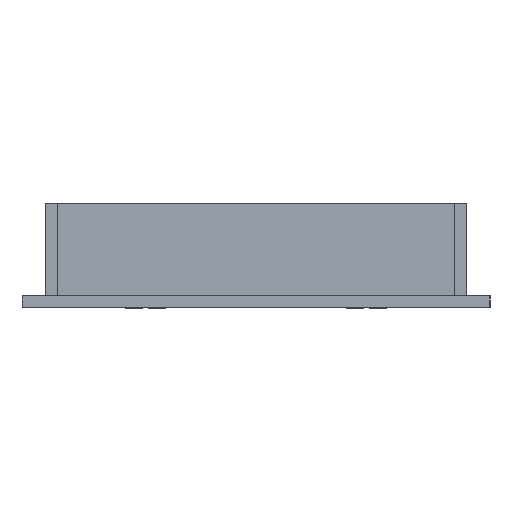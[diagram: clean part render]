
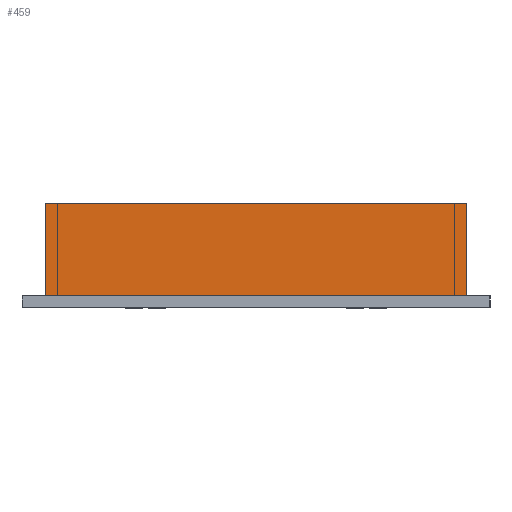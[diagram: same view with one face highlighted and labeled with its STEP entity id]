
A CAD part, left-side view. The second image highlights one B-rep face of the part: STEP entity #459.
In plain terms, the highlighted planar face has unit normal (-1, 0, 0).
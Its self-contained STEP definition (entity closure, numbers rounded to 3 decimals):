
#459=ADVANCED_FACE('',(#972),#6589,.T.);
#972=FACE_OUTER_BOUND('',#1491,.T.);
#1491=EDGE_LOOP('',(#3059,#3060,#3061,#3062));
#3059=ORIENTED_EDGE('',*,*,#5013,.T.);
#3060=ORIENTED_EDGE('',*,*,#5002,.T.);
#3061=ORIENTED_EDGE('',*,*,#5003,.F.);
#3062=ORIENTED_EDGE('',*,*,#5004,.F.);
#5002=EDGE_CURVE('',#6070,#6063,#7297,.T.);
#5003=EDGE_CURVE('',#6064,#6063,#7298,.T.);
#5004=EDGE_CURVE('',#6069,#6064,#7299,.T.);
#5013=EDGE_CURVE('',#6069,#6070,#7308,.T.);
#6063=VERTEX_POINT('',#15108);
#6064=VERTEX_POINT('',#15109);
#6069=VERTEX_POINT('',#15114);
#6070=VERTEX_POINT('',#15115);
#6589=PLANE('',#8552);
#7297=B_SPLINE_CURVE_WITH_KNOTS('',1,(#15192,#15193),.UNSPECIFIED.,.F.,
 .F.,(2,2),(0.,25.),.UNSPECIFIED.);
#7298=B_SPLINE_CURVE_WITH_KNOTS('',1,(#15194,#15195),.UNSPECIFIED.,.F.,
 .F.,(2,2),(-3248.564,-3134.564),.UNSPECIFIED.);
#7299=B_SPLINE_CURVE_WITH_KNOTS('',1,(#15196,#15197),.UNSPECIFIED.,.F.,
 .F.,(2,2),(0.,25.),.UNSPECIFIED.);
#7308=B_SPLINE_CURVE_WITH_KNOTS('',1,(#15214,#15215),.UNSPECIFIED.,.F.,
 .F.,(2,2),(-3248.564,-3134.564),.UNSPECIFIED.);
#8552=AXIS2_PLACEMENT_3D('',#14300,#8956,$);
#8956=DIRECTION('',(-1.,0.,0.));
#14300=CARTESIAN_POINT('',(6.5,-6.5,3.));
#15108=CARTESIAN_POINT('',(6.5,-120.5,28.));
#15109=CARTESIAN_POINT('',(6.5,-6.5,28.));
#15114=CARTESIAN_POINT('',(6.5,-6.5,3.));
#15115=CARTESIAN_POINT('',(6.5,-120.5,3.));
#15192=CARTESIAN_POINT('',(6.5,-120.5,3.));
#15193=CARTESIAN_POINT('',(6.5,-120.5,28.));
#15194=CARTESIAN_POINT('',(6.5,-6.5,28.));
#15195=CARTESIAN_POINT('',(6.5,-120.5,28.));
#15196=CARTESIAN_POINT('',(6.5,-6.5,3.));
#15197=CARTESIAN_POINT('',(6.5,-6.5,28.));
#15214=CARTESIAN_POINT('',(6.5,-6.5,3.));
#15215=CARTESIAN_POINT('',(6.5,-120.5,3.));
